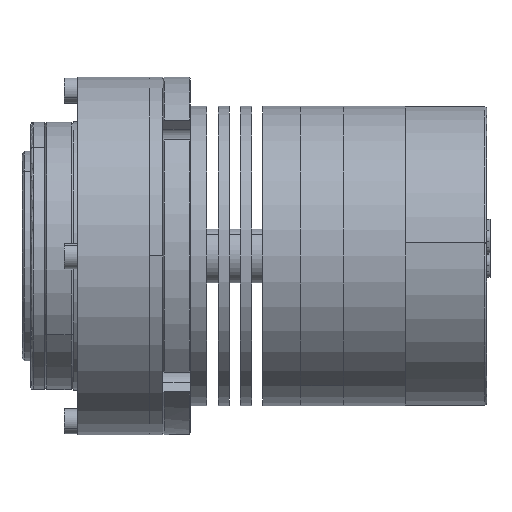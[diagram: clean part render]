
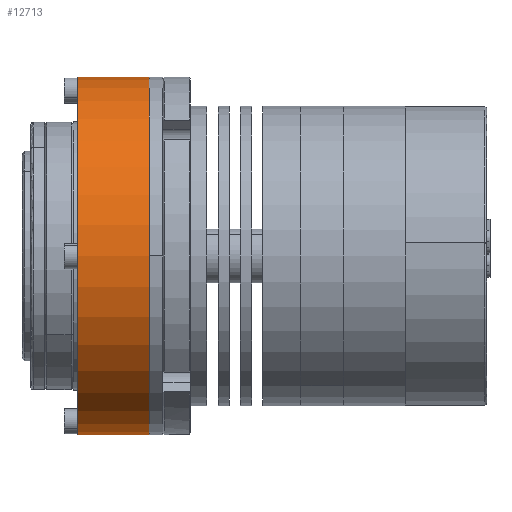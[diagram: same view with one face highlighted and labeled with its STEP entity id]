
A CAD part, left-side view. The second image highlights one B-rep face of the part: STEP entity #12713.
In plain terms, the highlighted cylindrical face has radius 40 mm (diameter 80 mm), a partial arc.
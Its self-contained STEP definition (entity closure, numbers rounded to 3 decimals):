
#550 = CYLINDRICAL_SURFACE ( 'NONE', #26559, 40. ) ;
#1719 = EDGE_CURVE ( 'NONE', #4864, #27369, #14124, .T. ) ;
#2061 = DIRECTION ( 'NONE',  ( 0., 1., 0. ) ) ;
#4864 = VERTEX_POINT ( 'NONE', #18359 ) ;
#5790 = AXIS2_PLACEMENT_3D ( 'NONE', #27227, #2061, #27404 ) ;
#6153 = CARTESIAN_POINT ( 'NONE',  ( 0., 16., 40. ) ) ;
#11846 = CARTESIAN_POINT ( 'NONE',  ( 0., 0., 40. ) ) ;
#12713 = ADVANCED_FACE ( 'NONE', ( #24013 ), #550, .T. ) ;
#13150 = ORIENTED_EDGE ( 'NONE', *, *, #18822, .F. ) ;
#13343 = CIRCLE ( 'NONE', #5790, 40. ) ;
#13746 = CIRCLE ( 'NONE', #25091, 40. ) ;
#13926 = DIRECTION ( 'NONE',  ( 0., 1., 0. ) ) ;
#14124 = LINE ( 'NONE', #19349, #25236 ) ;
#14845 = ORIENTED_EDGE ( 'NONE', *, *, #1719, .T. ) ;
#14854 = DIRECTION ( 'NONE',  ( 0., -1., 0. ) ) ;
#16591 = EDGE_LOOP ( 'NONE', ( #13150, #33295, #14845, #23501 ) ) ;
#18359 = CARTESIAN_POINT ( 'NONE',  ( 0., 16., -40. ) ) ;
#18822 = EDGE_CURVE ( 'NONE', #28496, #22328, #27882, .T. ) ;
#19192 = CARTESIAN_POINT ( 'NONE',  ( 0., 0., -40. ) ) ;
#19349 = CARTESIAN_POINT ( 'NONE',  ( 0., 16., -40. ) ) ;
#19584 = CARTESIAN_POINT ( 'NONE',  ( 0., 16., 40. ) ) ;
#21740 = EDGE_CURVE ( 'NONE', #4864, #28496, #13746, .T. ) ;
#21848 = DIRECTION ( 'NONE',  ( 0., 0., 1. ) ) ;
#22328 = VERTEX_POINT ( 'NONE', #11846 ) ;
#23486 = EDGE_CURVE ( 'NONE', #27369, #22328, #13343, .T. ) ;
#23501 = ORIENTED_EDGE ( 'NONE', *, *, #23486, .T. ) ;
#23533 = DIRECTION ( 'NONE',  ( 0., -1., 0. ) ) ;
#23850 = CARTESIAN_POINT ( 'NONE',  ( 0., 16., 0. ) ) ;
#24013 = FACE_OUTER_BOUND ( 'NONE', #16591, .T. ) ;
#24553 = CARTESIAN_POINT ( 'NONE',  ( 0., 16., 0. ) ) ;
#25091 = AXIS2_PLACEMENT_3D ( 'NONE', #24553, #13926, #21848 ) ;
#25236 = VECTOR ( 'NONE', #26014, 1000. ) ;
#26014 = DIRECTION ( 'NONE',  ( 0., -1., 0. ) ) ;
#26559 = AXIS2_PLACEMENT_3D ( 'NONE', #23850, #23533, #28939 ) ;
#27227 = CARTESIAN_POINT ( 'NONE',  ( 0., 0., 0. ) ) ;
#27369 = VERTEX_POINT ( 'NONE', #19192 ) ;
#27404 = DIRECTION ( 'NONE',  ( 0., 0., 1. ) ) ;
#27882 = LINE ( 'NONE', #19584, #28380 ) ;
#28380 = VECTOR ( 'NONE', #14854, 1000. ) ;
#28496 = VERTEX_POINT ( 'NONE', #6153 ) ;
#28939 = DIRECTION ( 'NONE',  ( 0., 0., -1. ) ) ;
#33295 = ORIENTED_EDGE ( 'NONE', *, *, #21740, .F. ) ;
